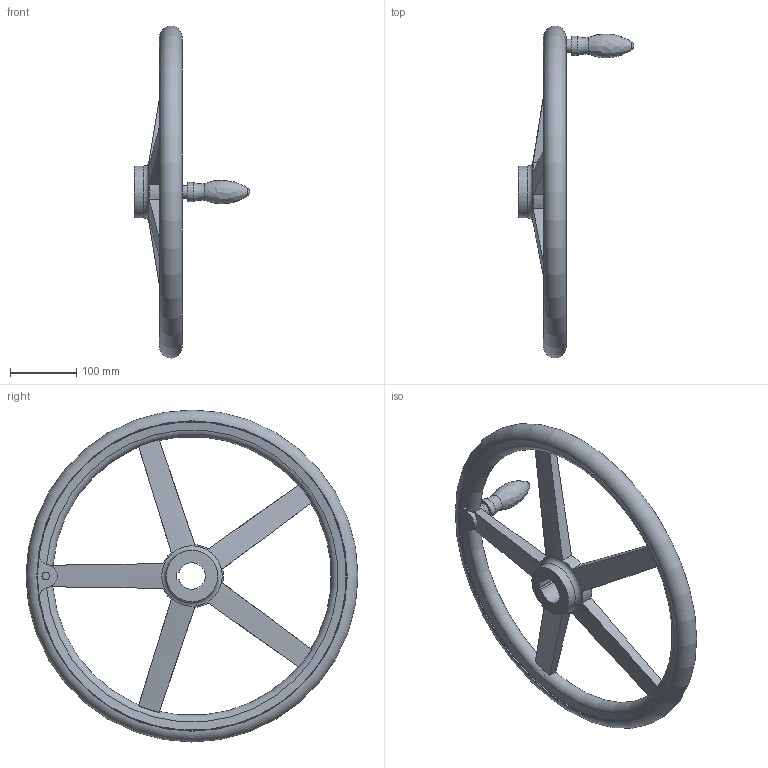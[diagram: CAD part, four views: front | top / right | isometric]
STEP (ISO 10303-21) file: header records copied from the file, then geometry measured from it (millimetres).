
FILE_DESCRIPTION( ( 'STEP AP203' ), '1' );
FILE_NAME( 'C:/Temp/Ganter_Step_05_03_2020/data/1_3/din_950/din_950_k/din_950_k_d/Handwheel DIN 950-AL-500-K40-D.stp', '2020-03-05T10:31:08', ( 'License CC BY-ND 4.0' ), ( 'CADENAS' ), ' ', 'PARTsolutions', ' ' );
FILE_SCHEMA( ( 'CONFIG_CONTROL_DESIGN' ) );
Length unit declared in the file: millimetre
Products named in the file (1): _Handwheel DIN 950-AL-500-K40-D
Bounding box: 174 x 499.98 x 499.98 mm (x, y, z)
Volume: 2138572.6 mm3; surface area: 289696.4 mm2
Topology: 1 solids, 1 shells, 68 faces, 197 edges, 127 vertices
Faces by surface type: torus 21, cylinder 20, plane 19, cone 6, bspline 1, sphere 1
Full cylindrical faces by diameter (mm): 20 x1, 29 x1, 78 x2, 466 x2
Entity records: 2706 total; most frequent: CARTESIAN_POINT 1045, ORIENTED_EDGE 342, DIRECTION 308, EDGE_CURVE 171, AXIS2_PLACEMENT_3D 141, VERTEX_POINT 123, EDGE_LOOP 96, FACE_OUTER_BOUND 83
